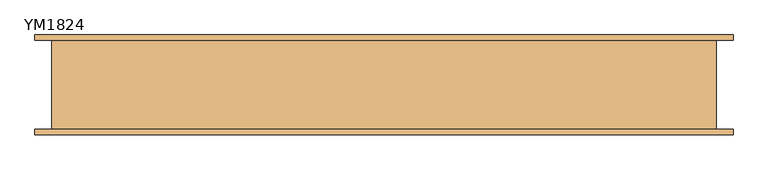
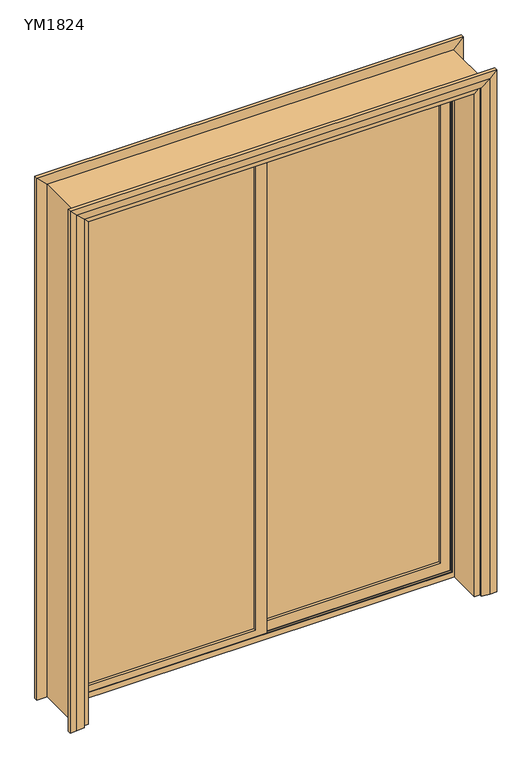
"""IFC4 building model written with IfcOpenShell, lengths in millimetres: door geometry, 双扇推拉门5 : YM1824."""

from ifc_helpers import new_model, si_unit, frame, origin, place, context, project, spatial, polyline, outline, extrude, faceted_brep, source, transform, mapped, element, save


def ym1824_3b6040d6(model_context):
    return source(origin(), model_context, "Body", "SolidModel", [
        extrude(outline(polyline([(-814.0, 55.0), (-25.0, 55.0), (-25.0, 49.0), (-814.0, 49.0), (-814.0, 55.0)])), frame((0.0, 0.0, 56.0), z_axis=(0.0, 0.0, 1.0), x_axis=(1.0, 0.0, 0.0)), (0.0, 0.0, 1.0), 2258.0),
        extrude(outline(polyline([(2364.0, 25.0), (2364.0, -864.0), (6.0, -864.0), (6.0, 25.0), (2364.0, 25.0)]), holes=[polyline([(2314.0, -25.0), (56.0, -25.0), (56.0, -814.0), (2314.0, -814.0), (2314.0, -25.0)])]), frame((0.0, 37.0, 0.0), z_axis=(0.0, 1.0, 0.0), x_axis=(0.0, 0.0, 1.0)), (0.0, 0.0, 1.0), 30.0),
        extrude(outline(polyline([(25.0, 88.0), (814.0, 88.0), (814.0, 82.0), (25.0, 82.0), (25.0, 88.0)])), frame((0.0, 0.0, 56.0), z_axis=(0.0, 0.0, 1.0), x_axis=(1.0, 0.0, 0.0)), (0.0, 0.0, 1.0), 2258.0),
        extrude(outline(polyline([(2364.0, -25.0), (6.0, -25.0), (6.0, 864.0), (2364.0, 864.0), (2364.0, -25.0)]), holes=[polyline([(2314.0, 25.0), (2314.0, 814.0), (56.0, 814.0), (56.0, 25.0), (2314.0, 25.0)])]), frame((0.0, 70.0, 0.0), z_axis=(0.0, 1.0, 0.0), x_axis=(0.0, 0.0, 1.0)), (0.0, 0.0, 1.0), 30.0),
        faceted_brep([(-870.0, 85.0, 0.0), (-870.0, 34.0, 0.0), (-870.0, 34.0, 2370.0), (-870.0, 85.0, 2370.0), (-850.0, 82.173064, 20.0), (-850.0, 85.0, 20.0), (-850.0, 85.0, 2350.0), (-850.0, 82.173064, 2350.0), (-865.0, 54.826936, 5.0), (-865.0, 82.173064, 5.0), (-865.0, 82.173064, 2365.0), (-865.0, 54.826936, 2365.0), (-850.0, 52.0, 20.0), (-850.0, 54.826936, 20.0), (-850.0, 54.826936, 2350.0), (-850.0, 52.0, 2350.0), (-865.0, 37.0, 5.0), (-865.0, 52.0, 5.0), (-865.0, 52.0, 2365.0), (-865.0, 37.0, 2365.0), (-845.0, 34.0, 25.0), (-845.0, 37.0, 25.0), (-845.0, 37.0, 2345.0), (-845.0, 34.0, 2345.0), (870.0, 34.0, 2370.0), (870.0, 85.0, 2370.0), (850.0, 85.0, 2350.0), (850.0, 82.173064, 2350.0), (865.0, 82.173064, 2365.0), (865.0, 54.826936, 2365.0), (850.0, 54.826936, 2350.0), (850.0, 52.0, 2350.0), (865.0, 52.0, 2365.0), (865.0, 37.0, 2365.0), (845.0, 37.0, 2345.0), (845.0, 34.0, 2345.0), (870.0, 34.0, 0.0), (870.0, 85.0, 0.0), (850.0, 85.0, 20.0), (850.0, 82.173064, 20.0), (865.0, 82.173064, 5.0), (865.0, 54.826936, 5.0), (850.0, 54.826936, 20.0), (850.0, 52.0, 20.0), (865.0, 52.0, 5.0), (865.0, 37.0, 5.0), (845.0, 37.0, 25.0), (845.0, 34.0, 25.0)], [[[0, 1, 2, 3]], [[4, 5, 6, 7]], [[8, 9, 10, 11]], [[12, 13, 14, 15]], [[16, 17, 18, 19]], [[20, 21, 22, 23]], [[3, 2, 24, 25]], [[7, 6, 26, 27]], [[11, 10, 28, 29]], [[15, 14, 30, 31]], [[19, 18, 32, 33]], [[23, 22, 34, 35]], [[25, 24, 36, 37]], [[27, 26, 38, 39]], [[29, 28, 40, 41]], [[31, 30, 42, 43]], [[33, 32, 44, 45]], [[35, 34, 46, 47]], [[1, 36, 24, 2], [23, 35, 47, 20]], [[37, 36, 1, 0]], [[3, 25, 37, 0], [5, 38, 26, 6]], [[39, 38, 5, 4]], [[9, 40, 28, 10], [7, 27, 39, 4]], [[41, 40, 9, 8]], [[11, 29, 41, 8], [13, 42, 30, 14]], [[43, 42, 13, 12]], [[17, 44, 32, 18], [15, 31, 43, 12]], [[45, 44, 17, 16]], [[19, 33, 45, 16], [21, 46, 34, 22]], [[47, 46, 21, 20]]]),
        faceted_brep([(-870.0, 120.0, 0.0), (-870.0, 34.0, 0.0), (-855.0, 34.0, 0.0), (-855.0, -120.0, 0.0), (-900.0, -120.0, 0.0), (-900.0, 120.0, 0.0), (-870.0, 120.0, 2370.0), (-870.0, 34.0, 2370.0), (-855.0, 34.0, 2355.0), (-855.0, -120.0, 2355.0), (-900.0, -120.0, 2400.0), (-900.0, 120.0, 2400.0), (870.0, 120.0, 2370.0), (870.0, 34.0, 2370.0), (855.0, 34.0, 2355.0), (855.0, -120.0, 2355.0), (900.0, -120.0, 2400.0), (900.0, 120.0, 2400.0), (870.0, 120.0, 0.0), (900.0, 120.0, 0.0), (900.0, -120.0, 0.0), (855.0, -120.0, 0.0), (855.0, 34.0, 0.0), (870.0, 34.0, 0.0)], [[[0, 1, 2, 3, 4, 5]], [[1, 0, 6, 7]], [[2, 1, 7, 8]], [[3, 2, 8, 9]], [[4, 3, 9, 10]], [[5, 4, 10, 11]], [[0, 5, 11, 6]], [[7, 6, 12, 13]], [[8, 7, 13, 14]], [[9, 8, 14, 15]], [[10, 9, 15, 16]], [[11, 10, 16, 17]], [[6, 11, 17, 12]], [[18, 19, 20, 21, 22, 23]], [[13, 12, 18, 23]], [[14, 13, 23, 22]], [[15, 14, 22, 21]], [[16, 15, 21, 20]], [[17, 16, 20, 19]], [[12, 17, 19, 18]]]),
        faceted_brep([(-880.0, 130.0, 0.0), (-880.0, 120.0, 0.0), (-945.0, 120.0, 0.0), (-945.0, 135.0, 0.0), (-915.0, 135.0, 0.0), (-880.0, 130.0, 2380.0), (-880.0, 120.0, 2380.0), (-945.0, 120.0, 2445.0), (-945.0, 135.0, 2445.0), (-915.0, 135.0, 2415.0), (880.0, 130.0, 2380.0), (880.0, 120.0, 2380.0), (945.0, 120.0, 2445.0), (945.0, 135.0, 2445.0), (915.0, 135.0, 2415.0), (880.0, 130.0, 0.0), (915.0, 135.0, 0.0), (945.0, 135.0, 0.0), (945.0, 120.0, 0.0), (880.0, 120.0, 0.0)], [[[0, 1, 2, 3, 4]], [[1, 0, 5, 6]], [[2, 1, 6, 7]], [[3, 2, 7, 8]], [[4, 3, 8, 9]], [[0, 4, 9, 5]], [[6, 5, 10, 11]], [[7, 6, 11, 12]], [[8, 7, 12, 13]], [[9, 8, 13, 14]], [[5, 9, 14, 10]], [[15, 16, 17, 18, 19]], [[11, 10, 15, 19]], [[12, 11, 19, 18]], [[13, 12, 18, 17]], [[14, 13, 17, 16]], [[10, 14, 16, 15]]]),
        faceted_brep([(-880.0, -130.0, 0.0), (-915.0, -135.0, 0.0), (-945.0, -135.0, 0.0), (-945.0, -120.0, 0.0), (-880.0, -120.0, 0.0), (-880.0, -130.0, 2380.0), (-915.0, -135.0, 2415.0), (-945.0, -135.0, 2445.0), (-945.0, -120.0, 2445.0), (-880.0, -120.0, 2380.0), (880.0, -130.0, 2380.0), (915.0, -135.0, 2415.0), (945.0, -135.0, 2445.0), (945.0, -120.0, 2445.0), (880.0, -120.0, 2380.0), (880.0, -130.0, 0.0), (880.0, -120.0, 0.0), (945.0, -120.0, 0.0), (945.0, -135.0, 0.0), (915.0, -135.0, 0.0)], [[[0, 1, 2, 3, 4]], [[1, 0, 5, 6]], [[2, 1, 6, 7]], [[3, 2, 7, 8]], [[4, 3, 8, 9]], [[0, 4, 9, 5]], [[6, 5, 10, 11]], [[7, 6, 11, 12]], [[8, 7, 12, 13]], [[9, 8, 13, 14]], [[5, 9, 14, 10]], [[15, 16, 17, 18, 19]], [[11, 10, 15, 19]], [[12, 11, 19, 18]], [[13, 12, 18, 17]], [[14, 13, 17, 16]], [[10, 14, 16, 15]]]),
    ])


if __name__ == "__main__":
    model = new_model("IFC4")
    model_context = context("Model", 3, world=origin())
    ifc_project = project(units=[si_unit("LENGTHUNIT", "METRE", prefix="MILLI")], contexts=[model_context])
    site = spatial("IfcSite", under=ifc_project)
    building = spatial("IfcBuilding", under=site)
    placement = place(None, origin())
    ym1824_shape = ym1824_3b6040d6(model_context)
    element("IfcDoor", 1, ObjectType="双扇推拉门5 : YM1824", at=placement, inside=building, context=model_context, shape_type="MappedRepresentation", body=[
        mapped(ym1824_shape, transform((0.0, 0.0, 0.0), x_axis=(1.0, 0.0, 0.0), y_axis=(0.0, 1.0, 0.0), z_axis=(0.0, 0.0, 1.0))),
    ])
    save(model, "model.ifc")
